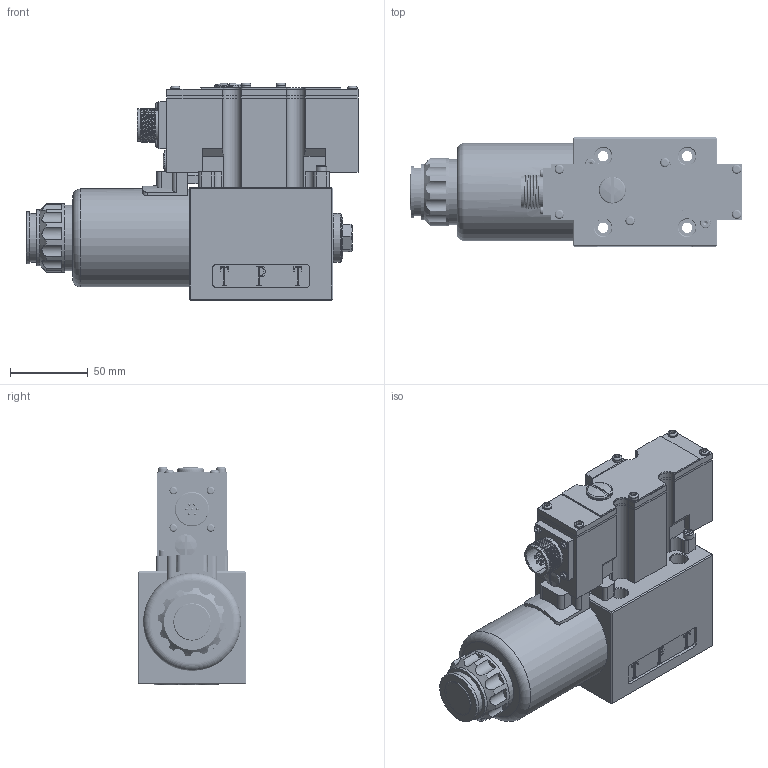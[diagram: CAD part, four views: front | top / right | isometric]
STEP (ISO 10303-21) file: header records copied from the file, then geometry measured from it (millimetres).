
FILE_DESCRIPTION(/* description */ (''),/* implementation_level */ '2;1');
FILE_NAME(/* name */ '4WRAE10A-2XJ比例换向阀.prt.stp',/* time_stamp */ '2022-03-30T18:33:58+08:00',/* author */ (''),/* organization */ (''),/* preprocessor_version */ 'ST-DEVELOPER v16.7',/* originating_system */ 'SIEMENS PLM Software NX 12.0',/* authorisation */ '');
FILE_SCHEMA (('AUTOMOTIVE_DESIGN { 1 0 10303 214 3 1 1 1 }'));
Products named in the file (1): 4WRAE10A-2XJ比例换向阀
Bounding box: 213.5 x 70 x 140.1 mm (x, y, z)
Volume: 998929.1 mm3; surface area: 178640 mm2
Topology: 26 solids, 36 shells, 1289 faces, 3215 edges, 2041 vertices
Faces by surface type: plane 714, cylinder 388, cone 58, bspline 54, torus 51, sphere 17, extrusion 7
Full cylindrical faces by diameter (mm): 0.8 x1, 1.8 x4, 2 x1, 2.5 x2, 2.8 x26, 3.2 x56, 3.6 x10, 4 x2, 5 x4, 6 x1, 6.5 x2, 6.6 x4, 6.78 x2, 7 x2, 9.36 x1, 10.75 x3, 11 x4, 12.8 x1, 14.04 x1, 14.6 x1, 14.701 x3, 15.7 x5, 16.5 x1, 17 x1, 17.2 x1, 21 x2, 21.4 x1, 24 x1, 26 x2, 31 x1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
Entity records: 98000 total; most frequent: CARTESIAN_POINT 70434, ORIENTED_EDGE 5462, DIRECTION 5292, EDGE_CURVE 2731, VERTEX_POINT 1824, AXIS2_PLACEMENT_3D 1818, VECTOR 1656, LINE 1649
